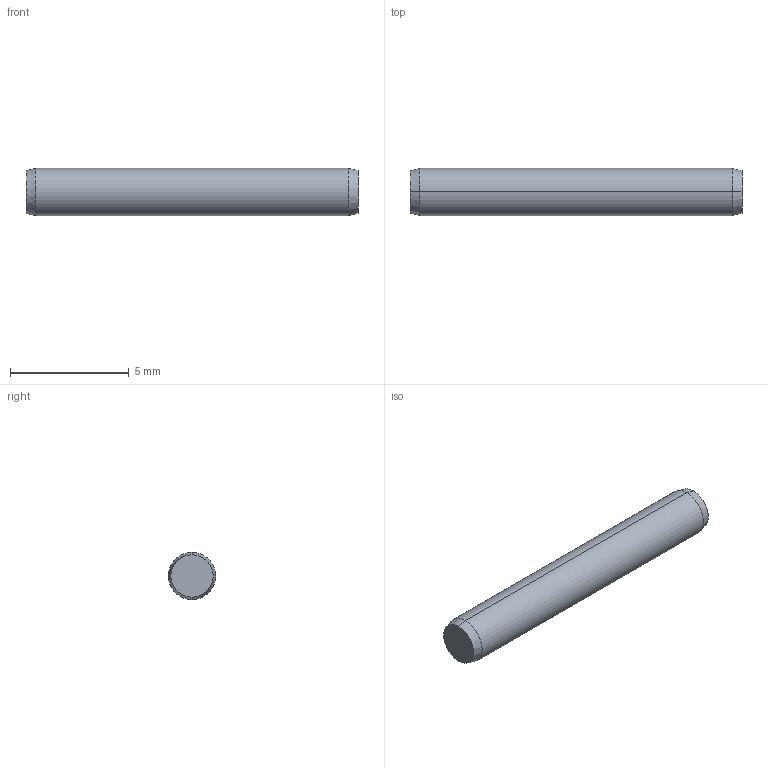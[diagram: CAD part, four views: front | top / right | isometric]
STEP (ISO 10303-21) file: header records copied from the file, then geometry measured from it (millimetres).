
FILE_DESCRIPTION (( 'STEP AP203' ), '1' );
FILE_NAME ('P1206.020-014.step', '2017-06-14T07:57:13', ( 'User' ), ( '' ), 'SwSTEP 2.0', 'SolidWorks 2009', '' );
FILE_SCHEMA (( 'CONFIG_CONTROL_DESIGN' ));
Length unit declared in the file: millimetre
Products named in the file (1): P1206.020-014
Bounding box: 14 x 2 x 2 mm (x, y, z)
Volume: 43.7 mm3; surface area: 92.9 mm2
Topology: 1 solids, 1 shells, 8 faces, 14 edges, 8 vertices
Faces by surface type: cone 4, cylinder 2, plane 2
Entity records: 271 total; most frequent: DIRECTION 40, CARTESIAN_POINT 31, ORIENTED_EDGE 28, AXIS2_PLACEMENT_3D 17, EDGE_CURVE 14, EDGE_LOOP 8, VERTEX_POINT 8, ADVANCED_FACE 8
